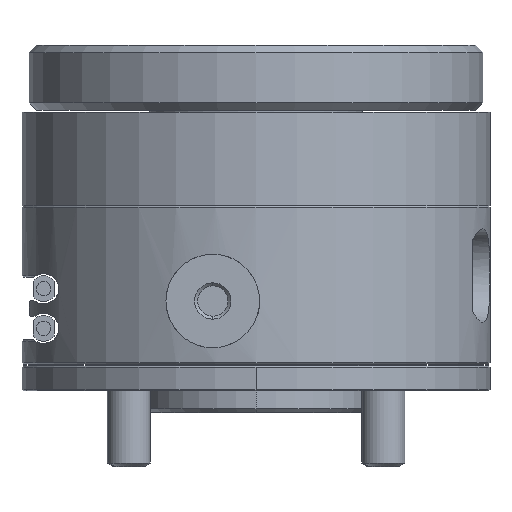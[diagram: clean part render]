
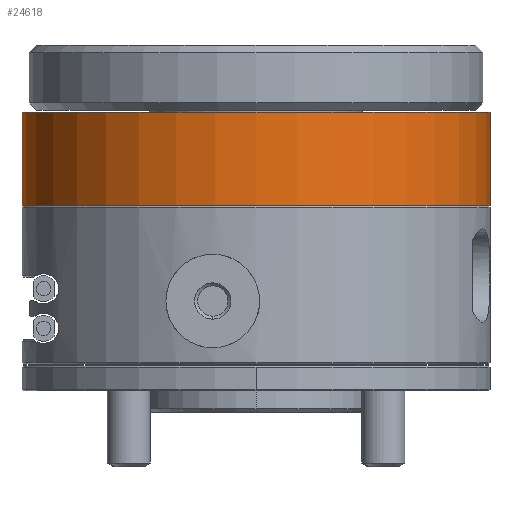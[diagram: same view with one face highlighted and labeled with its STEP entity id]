
A CAD part, front view. The second image highlights one B-rep face of the part: STEP entity #24618.
In plain terms, the highlighted cylindrical face has radius 32.5 mm (diameter 65 mm), a partial arc.
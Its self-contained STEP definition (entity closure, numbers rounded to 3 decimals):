
#657 = VERTEX_POINT ( 'NONE', #20637 ) ;
#790 = AXIS2_PLACEMENT_3D ( 'NONE', #10386, #1673, #19637 ) ;
#1123 = FACE_OUTER_BOUND ( 'NONE', #11757, .T. ) ;
#1234 = VERTEX_POINT ( 'NONE', #29000 ) ;
#1673 = DIRECTION ( 'NONE',  ( 0., 0., 1. ) ) ;
#1755 = EDGE_CURVE ( 'NONE', #1234, #21128, #12781, .T. ) ;
#4930 = CARTESIAN_POINT ( 'NONE',  ( 0., 0., 13. ) ) ;
#5535 = AXIS2_PLACEMENT_3D ( 'NONE', #4930, #25363, #20557 ) ;
#5691 = ORIENTED_EDGE ( 'NONE', *, *, #1755, .T. ) ;
#5705 = VECTOR ( 'NONE', #6011, 1000. ) ;
#6011 = DIRECTION ( 'NONE',  ( 0., 0., -1. ) ) ;
#6326 = AXIS2_PLACEMENT_3D ( 'NONE', #19756, #22013, #22111 ) ;
#8215 = DIRECTION ( 'NONE',  ( 0., 0., -1. ) ) ;
#8501 = CARTESIAN_POINT ( 'NONE',  ( -32.5, 0., 13. ) ) ;
#8841 = VERTEX_POINT ( 'NONE', #11712 ) ;
#10386 = CARTESIAN_POINT ( 'NONE',  ( 0., 0., 13. ) ) ;
#11373 = ORIENTED_EDGE ( 'NONE', *, *, #15309, .F. ) ;
#11712 = CARTESIAN_POINT ( 'NONE',  ( 32.5, 0., 13. ) ) ;
#11757 = EDGE_LOOP ( 'NONE', ( #11373, #21129, #5691, #25487 ) ) ;
#12781 = LINE ( 'NONE', #8501, #20212 ) ;
#13966 = CIRCLE ( 'NONE', #790, 32.5 ) ;
#15241 = CARTESIAN_POINT ( 'NONE',  ( -32.5, 0., 0. ) ) ;
#15309 = EDGE_CURVE ( 'NONE', #8841, #657, #16622, .T. ) ;
#15376 = EDGE_CURVE ( 'NONE', #657, #21128, #15883, .T. ) ;
#15883 = CIRCLE ( 'NONE', #6326, 32.5 ) ;
#16622 = LINE ( 'NONE', #17218, #5705 ) ;
#17218 = CARTESIAN_POINT ( 'NONE',  ( 32.5, 0., 13. ) ) ;
#19100 = EDGE_CURVE ( 'NONE', #1234, #8841, #13966, .T. ) ;
#19637 = DIRECTION ( 'NONE',  ( 1., 0., 0. ) ) ;
#19756 = CARTESIAN_POINT ( 'NONE',  ( 0., 0., 0. ) ) ;
#20212 = VECTOR ( 'NONE', #8215, 1000. ) ;
#20557 = DIRECTION ( 'NONE',  ( -1., 0., 0. ) ) ;
#20637 = CARTESIAN_POINT ( 'NONE',  ( 32.5, 0., 0. ) ) ;
#21128 = VERTEX_POINT ( 'NONE', #15241 ) ;
#21129 = ORIENTED_EDGE ( 'NONE', *, *, #19100, .F. ) ;
#22013 = DIRECTION ( 'NONE',  ( 0., 0., -1. ) ) ;
#22111 = DIRECTION ( 'NONE',  ( 1., 0., 0. ) ) ;
#24618 = ADVANCED_FACE ( 'NONE', ( #1123 ), #26355, .T. ) ;
#25363 = DIRECTION ( 'NONE',  ( 0., 0., -1. ) ) ;
#25487 = ORIENTED_EDGE ( 'NONE', *, *, #15376, .F. ) ;
#26355 = CYLINDRICAL_SURFACE ( 'NONE', #5535, 32.5 ) ;
#29000 = CARTESIAN_POINT ( 'NONE',  ( -32.5, 0., 13. ) ) ;
